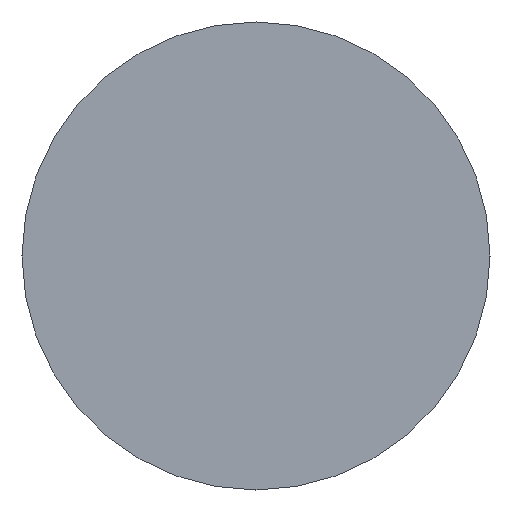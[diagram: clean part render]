
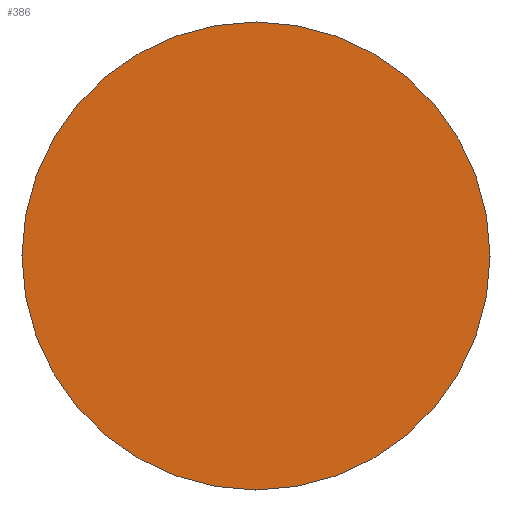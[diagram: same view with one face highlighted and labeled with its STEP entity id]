
A CAD part, left-side view. The second image highlights one B-rep face of the part: STEP entity #386.
In plain terms, the highlighted planar face has unit normal (-1, 0, 0).
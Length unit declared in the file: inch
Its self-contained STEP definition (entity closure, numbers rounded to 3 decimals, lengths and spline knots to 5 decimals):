
#13 = AXIS2_PLACEMENT_3D ( 'NONE', #325, #156, #28 ) ;
#21 = DIRECTION ( 'NONE',  ( -1., 0., 0. ) ) ;
#28 = DIRECTION ( 'NONE',  ( 0., 0., 1. ) ) ;
#35 = EDGE_CURVE ( 'NONE', #426, #400, #93, .T. ) ;
#86 = CARTESIAN_POINT ( 'NONE',  ( -7., 0., 0.375 ) ) ;
#93 = CIRCLE ( 'NONE', #13, 0.375 ) ;
#152 = FACE_OUTER_BOUND ( 'NONE', #321, .T. ) ;
#156 = DIRECTION ( 'NONE',  ( -1., 0., 0. ) ) ;
#158 = CARTESIAN_POINT ( 'NONE',  ( -7., 0.375, 0. ) ) ;
#191 = ORIENTED_EDGE ( 'NONE', *, *, #35, .T. ) ;
#210 = AXIS2_PLACEMENT_3D ( 'NONE', #246, #21, #399 ) ;
#231 = AXIS2_PLACEMENT_3D ( 'NONE', #158, #365, #297 ) ;
#243 = ORIENTED_EDGE ( 'NONE', *, *, #335, .T. ) ;
#246 = CARTESIAN_POINT ( 'NONE',  ( -7., 0., 0. ) ) ;
#297 = DIRECTION ( 'NONE',  ( 0., 0., -1. ) ) ;
#321 = EDGE_LOOP ( 'NONE', ( #243, #191 ) ) ;
#325 = CARTESIAN_POINT ( 'NONE',  ( -7., 0., 0. ) ) ;
#330 = PLANE ( 'NONE',  #231 ) ;
#333 = CIRCLE ( 'NONE', #210, 0.375 ) ;
#335 = EDGE_CURVE ( 'NONE', #400, #426, #333, .T. ) ;
#365 = DIRECTION ( 'NONE',  ( 1., 0., 0. ) ) ;
#386 = ADVANCED_FACE ( 'NONE', ( #152 ), #330, .F. ) ;
#399 = DIRECTION ( 'NONE',  ( 0., 0., 1. ) ) ;
#400 = VERTEX_POINT ( 'NONE', #86 ) ;
#406 = CARTESIAN_POINT ( 'NONE',  ( -7., 0., -0.375 ) ) ;
#426 = VERTEX_POINT ( 'NONE', #406 ) ;
